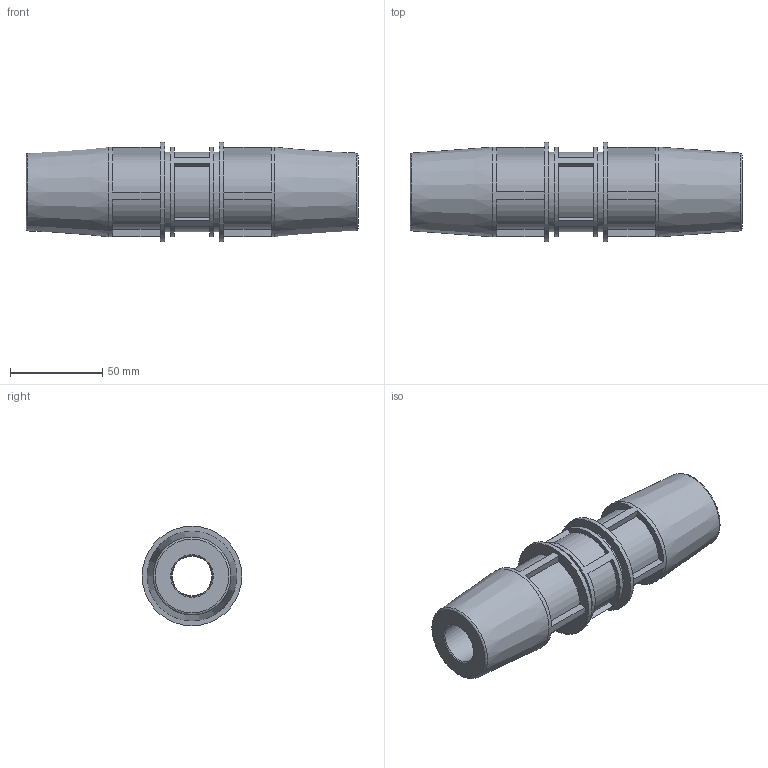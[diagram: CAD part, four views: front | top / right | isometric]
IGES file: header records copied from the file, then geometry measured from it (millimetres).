
Global section: file name: 176100019022_196100019022.ipt; native system: Autodesk Inventor 2019; preprocessor: unknown; author: KIM; date: 20201210.135623; units: millimetre
Bounding box: 180 x 54 x 54 mm (x, y, z)
Volume: 207983.9 mm3; surface area: 48149.4 mm2
Topology: 1 solids, 1 shells, 78 faces, 197 edges, 132 vertices
Faces by surface type: plane 50, cylinder 19, revolution 7, cone 2
Full cylindrical faces by diameter (mm): 43.2 x2, 48.6 x3, 54 x2
